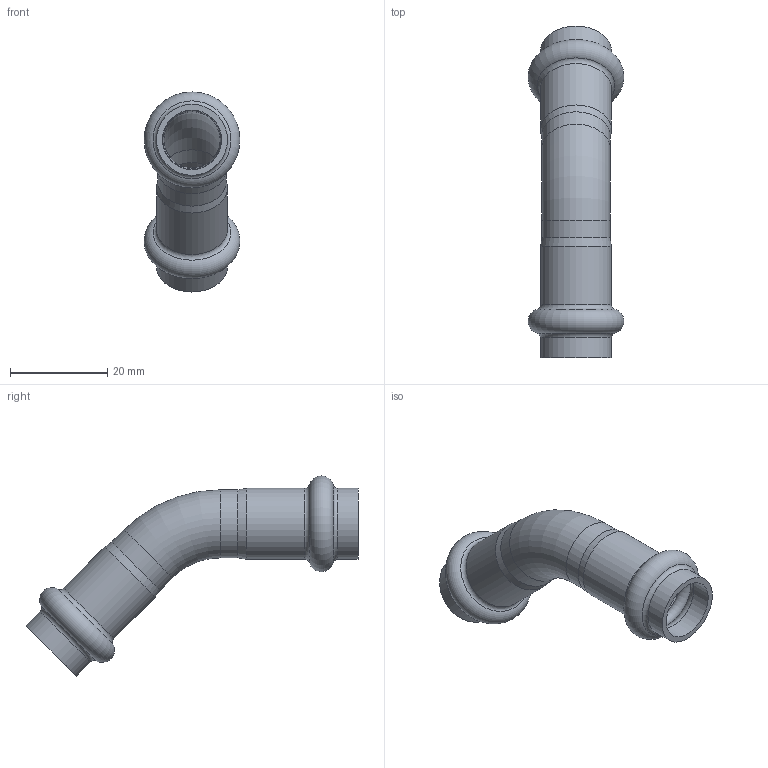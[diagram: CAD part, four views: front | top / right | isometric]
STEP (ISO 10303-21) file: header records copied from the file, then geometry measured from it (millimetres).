
FILE_DESCRIPTION(('STEP AP203'), '1');
FILE_NAME('VTi.959.I.001212', '', ('UNSPECIFIED'), ('UNSPECIFIED'), 'C3D Converter', 'C3D Toolkit', '');
FILE_SCHEMA(('CONFIG_CONTROL_DESIGN'));
Length unit declared in the file: millimetre
Products named in the file (1): ВР.302661.016.000 СБ
Bounding box: 19.7 x 68.32 x 41.17 mm (x, y, z)
Volume: 4498.9 mm3; surface area: 7549.3 mm2
Topology: 1 solids, 1 shells, 34 faces, 74 edges, 42 vertices
Faces by surface type: torus 16, cylinder 12, cone 4, plane 2
Full cylindrical faces by diameter (mm): 11.6 x2, 12.2 x4, 14 x2, 14.6 x4
Entity records: 808 total; most frequent: DIRECTION 154, CARTESIAN_POINT 119, ORIENTED_EDGE 84, AXIS2_PLACEMENT_3D 77, EDGE_LOOP 68, FACE_OUTER_BOUND 48, EDGE_CURVE 42, VERTEX_POINT 42
